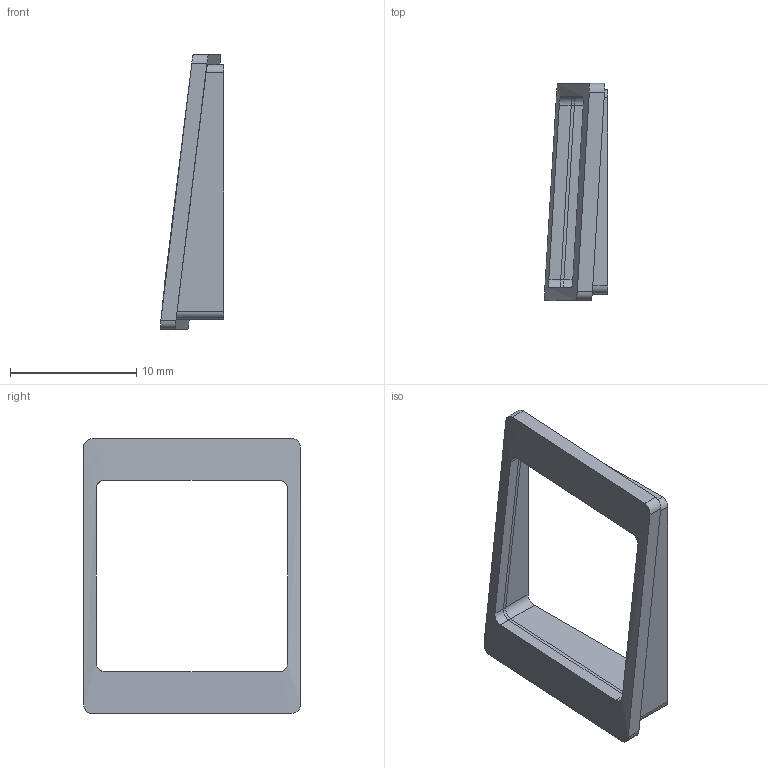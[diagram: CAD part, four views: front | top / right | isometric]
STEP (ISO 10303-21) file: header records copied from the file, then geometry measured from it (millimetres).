
FILE_DESCRIPTION(('Open CASCADE Model'),'2;1');
FILE_NAME('Open CASCADE Shape Model','2026-10-28T00:38:01',('Author'),( 'Open CASCADE'),'Open CASCADE STEP processor 7.8','Open CASCADE 7.8' ,'Unknown');
FILE_SCHEMA(('AUTOMOTIVE_DESIGN { 1 0 10303 214 1 1 1 1 }'));
Length unit declared in the file: millimetre
Products named in the file (1): Open CASCADE STEP translator 7.8 12
Bounding box: 5 x 17.2 x 21.8 mm (x, y, z)
Volume: 372.4 mm3; surface area: 729.1 mm2
Topology: 1 solids, 1 shells, 43 faces, 108 edges, 68 vertices
Faces by surface type: plane 21, cylinder 20, bspline 2
Entity records: 8771 total; most frequent: CARTESIAN_POINT 6885, DIRECTION 244, ORIENTED_EDGE 216, PCURVE 216, DEFINITIONAL_REPRESENTATION 216, B_SPLINE_CURVE_WITH_KNOTS 172, LINE 136, VECTOR 136
